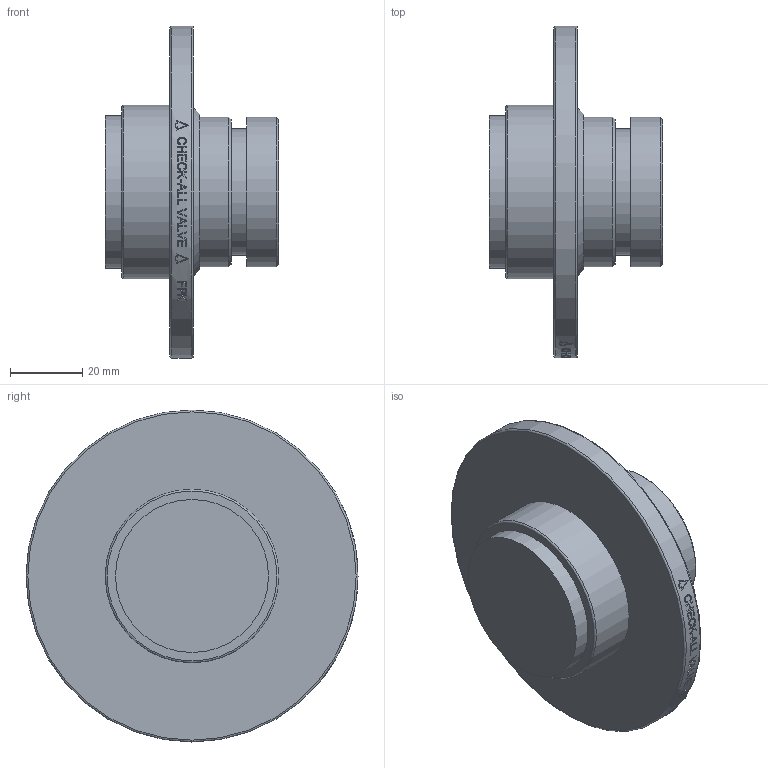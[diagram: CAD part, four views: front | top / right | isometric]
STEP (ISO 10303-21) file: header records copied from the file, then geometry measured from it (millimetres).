
FILE_DESCRIPTION( ( 'Unknown' ), '1' );
FILE_NAME( 'Y:/ENGR/3D Solid Edge Models/FP/FP STEP/FPK.stp', 'Unknown', ( 'Unknown' ), ( 'Unknown' ), 'PSStep 14.0', 'Unknown', ' ' );
FILE_SCHEMA( ( 'AUTOMOTIVE_DESIGN { 1 0 10303 214 1 1 1 1 }' ) );
Length unit declared in the file: millimetre
Products named in the file (1): 1
Bounding box: 48.01 x 92.08 x 92.08 mm (x, y, z)
Volume: 104419.6 mm3; surface area: 21516.6 mm2
Topology: 1 solids, 1 shells, 214 faces, 541 edges, 359 vertices
Faces by surface type: plane 130, bspline 48, cylinder 30, torus 3, cone 3
Full cylindrical faces by diameter (mm): 35.179 x1, 41.529 x2, 42.418 x1, 48.133 x1, 92.075 x1
Entity records: 9532 total; most frequent: CARTESIAN_POINT 3827, ORIENTED_EDGE 1058, EDGE_CURVE 529, B_SPLINE_CURVE_WITH_KNOTS 510, DIRECTION 372, VERTEX_POINT 359, EDGE_LOOP 256, FACE_OUTER_BOUND 223
